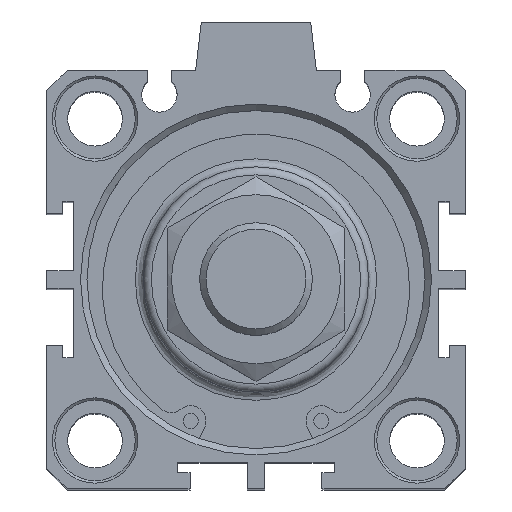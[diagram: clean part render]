
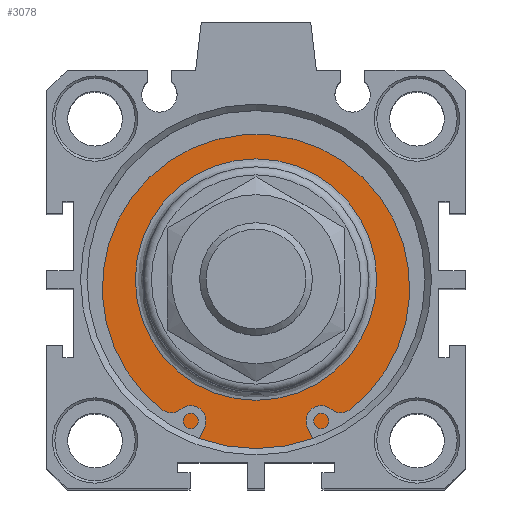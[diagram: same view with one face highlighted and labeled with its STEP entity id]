
A CAD part, top view. The second image highlights one B-rep face of the part: STEP entity #3078.
In plain terms, the highlighted planar face has unit normal (0, 0, 1).
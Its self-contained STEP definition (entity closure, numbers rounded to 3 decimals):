
#3027=CARTESIAN_POINT('',(-1.555,16.077,82.4));
#3028=VERTEX_POINT('',#3027);
#3029=CARTESIAN_POINT('',(-1.555,1.077,82.4));
#3030=DIRECTION('',(0.0,0.0,1.0));
#3031=DIRECTION('',(0.0,-1.0,0.0));
#3032=AXIS2_PLACEMENT_3D('',#3029,#3030,#3031);
#3033=CIRCLE('',#3032,15.0);
#3034=EDGE_CURVE('',#3028,#3028,#3033,.T.);
#3059=CARTESIAN_POINT('',(-1.555,18.577,82.4));
#3060=DIRECTION('',(0.0,0.0,1.0));
#3061=DIRECTION('',(1.0,0.0,0.0));
#3062=AXIS2_PLACEMENT_3D('',#3059,#3060,#3061);
#3063=PLANE('',#3062);
#3064=CARTESIAN_POINT('',(-1.555,22.077,82.4));
#3065=VERTEX_POINT('',#3064);
#3066=CARTESIAN_POINT('',(-1.555,1.077,82.4));
#3067=DIRECTION('',(0.0,0.0,-1.0));
#3068=DIRECTION('',(0.0,1.0,0.0));
#3069=AXIS2_PLACEMENT_3D('',#3066,#3067,#3068);
#3070=CIRCLE('',#3069,21.);
#3071=EDGE_CURVE('',#3065,#3065,#3070,.T.);
#3072=ORIENTED_EDGE('',*,*,#3071,.F.);
#3073=EDGE_LOOP('',(#3072));
#3074=FACE_OUTER_BOUND('',#3073,.T.);
#3075=ORIENTED_EDGE('',*,*,#3034,.F.);
#3076=EDGE_LOOP('',(#3075));
#3077=FACE_BOUND('',#3076,.T.);
#3078=ADVANCED_FACE('',(#3074,#3077),#3063,.T.);
